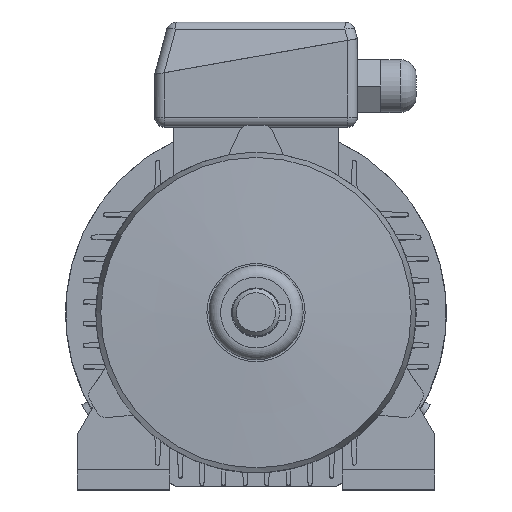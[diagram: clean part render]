
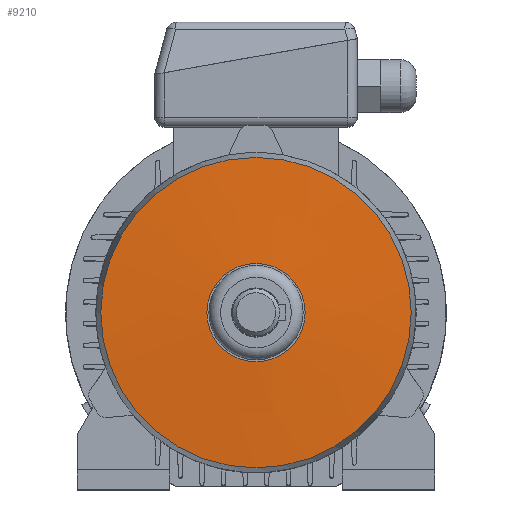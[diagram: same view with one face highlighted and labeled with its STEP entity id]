
A CAD part, top view. The second image highlights one B-rep face of the part: STEP entity #9210.
In plain terms, the highlighted conical face has half-angle 86.822 degrees and reference radius 25 mm.
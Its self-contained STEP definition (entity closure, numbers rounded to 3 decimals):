
#416=CONICAL_SURFACE('',#9768,25.,1.515);
#3333=ORIENTED_EDGE('',*,*,#5531,.F.);
#3334=ORIENTED_EDGE('',*,*,#5436,.T.);
#5436=EDGE_CURVE('',#6630,#6630,#7217,.T.);
#5531=EDGE_CURVE('',#6710,#6710,#7263,.T.);
#6630=VERTEX_POINT('',#18155);
#6710=VERTEX_POINT('',#18356);
#7217=CIRCLE('',#9697,25.);
#7263=CIRCLE('',#9769,79.031);
#7796=EDGE_LOOP('',(#3333));
#7797=EDGE_LOOP('',(#3334));
#8375=FACE_BOUND('',#7796,.T.);
#8376=FACE_BOUND('',#7797,.T.);
#9210=ADVANCED_FACE('',(#8375,#8376),#416,.T.);
#9697=AXIS2_PLACEMENT_3D('',#18154,#11024,#11025);
#9768=AXIS2_PLACEMENT_3D('',#18354,#11215,#11216);
#9769=AXIS2_PLACEMENT_3D('',#18355,#11217,#11218);
#11024=DIRECTION('',(0.,0.,-1.));
#11025=DIRECTION('',(-1.,0.,0.));
#11215=DIRECTION('',(0.,0.,-1.));
#11216=DIRECTION('',(-1.,0.,0.));
#11217=DIRECTION('',(0.,0.,-1.));
#11218=DIRECTION('',(-1.,0.,0.));
#18154=CARTESIAN_POINT('',(0.,0.,27.));
#18155=CARTESIAN_POINT('',(-25.,0.,27.));
#18354=CARTESIAN_POINT('',(0.,0.,27.));
#18355=CARTESIAN_POINT('',(0.,0.,24.));
#18356=CARTESIAN_POINT('',(-79.031,0.,24.));
